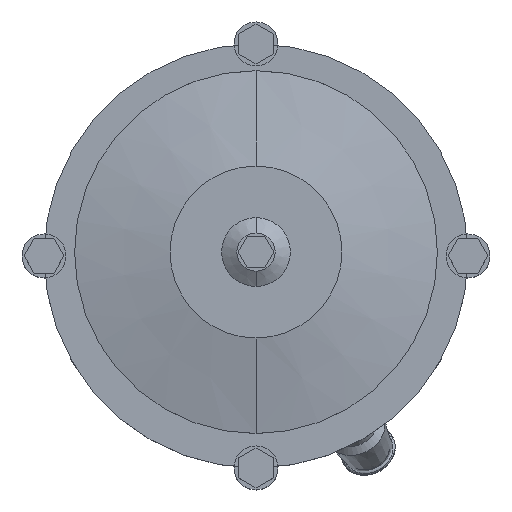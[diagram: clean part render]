
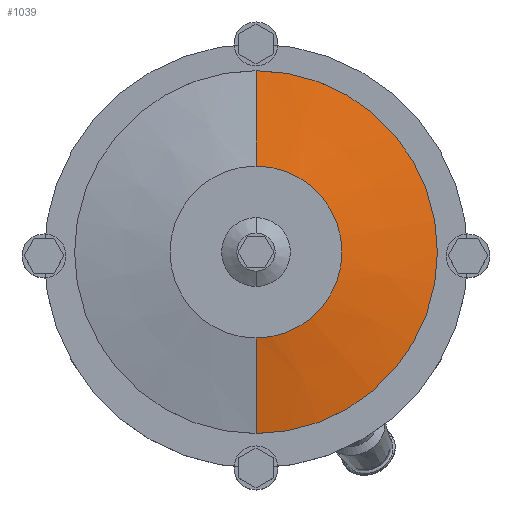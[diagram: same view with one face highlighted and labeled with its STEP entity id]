
A CAD part, top view. The second image highlights one B-rep face of the part: STEP entity #1039.
In plain terms, the highlighted conical face has half-angle 78.69 degrees and reference radius 70 mm.
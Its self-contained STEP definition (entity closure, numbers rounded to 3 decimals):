
#1039=ADVANCED_FACE('',(#1856),#1857,.T.);
#1856=FACE_OUTER_BOUND('',#2714,.T.);
#1857=CONICAL_SURFACE('',#2715,70.0,1.373);
#2714=EDGE_LOOP('',(#4289,#4290,#4291,#4292));
#2715=AXIS2_PLACEMENT_3D('',#4293,#4294,#4295);
#4289=ORIENTED_EDGE('',*,*,#4804,.F.);
#4290=ORIENTED_EDGE('',*,*,#4678,.F.);
#4291=ORIENTED_EDGE('',*,*,#4806,.F.);
#4292=ORIENTED_EDGE('',*,*,#4961,.F.);
#4293=CARTESIAN_POINT('',(0.0,0.,1285.0));
#4294=DIRECTION('',(-0.0,0.,-1.0));
#4295=DIRECTION('',(0.0,-1.0,0.));
#4678=EDGE_CURVE('',#5473,#5472,#5475,.T.);
#4804=EDGE_CURVE('',#5472,#5656,#5657,.T.);
#4806=EDGE_CURVE('',#5658,#5473,#5660,.T.);
#4961=EDGE_CURVE('',#5656,#5658,#5852,.T.);
#5472=VERTEX_POINT('',#6487);
#5473=VERTEX_POINT('',#6488);
#5475=CIRCLE('',#6490,95.0);
#5656=VERTEX_POINT('',#6712);
#5657=LINE('',#6713,#6714);
#5658=VERTEX_POINT('',#6715);
#5660=LINE('',#6717,#6718);
#5852=CIRCLE('',#6967,45.0);
#6487=CARTESIAN_POINT('',(0.0,-95.0,1280.0));
#6488=CARTESIAN_POINT('',(0.,95.0,1280.0));
#6490=AXIS2_PLACEMENT_3D('',#7413,#7414,#7415);
#6712=CARTESIAN_POINT('',(0.0,-45.0,1290.0));
#6713=CARTESIAN_POINT('',(0.,-70.0,1285.0));
#6714=VECTOR('',#7583,1.0);
#6715=CARTESIAN_POINT('',(0.,45.0,1290.0));
#6717=CARTESIAN_POINT('',(0.,70.0,1285.0));
#6718=VECTOR('',#7587,1.0);
#6967=AXIS2_PLACEMENT_3D('',#7729,#7730,#7731);
#7413=CARTESIAN_POINT('',(0.0,0.0,1280.0));
#7414=DIRECTION('',(0.0,0.,-1.0));
#7415=DIRECTION('',(0.0,-1.0,0.));
#7583=DIRECTION('',(0.,0.981,0.196));
#7587=DIRECTION('',(0.,0.981,-0.196));
#7729=CARTESIAN_POINT('',(0.0,0.,1290.0));
#7730=DIRECTION('',(0.0,0.,1.0));
#7731=DIRECTION('',(0.0,-1.0,0.));
